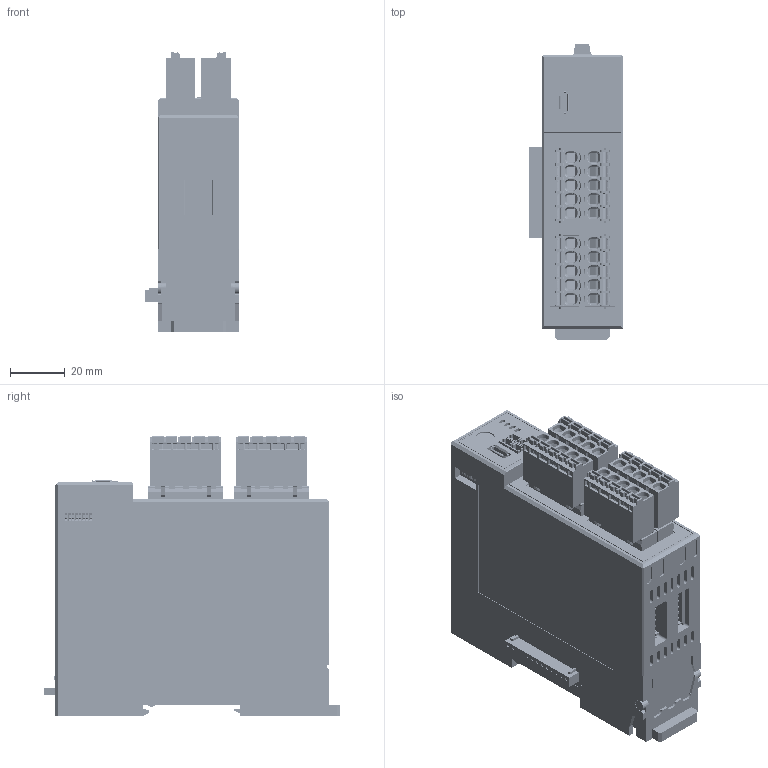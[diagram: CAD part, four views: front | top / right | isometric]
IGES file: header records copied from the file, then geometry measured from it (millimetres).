
Start section: SolidWorks IGES file using analytic representation for surfaces
Global section: file name: D:\KK\CAD_DATA\Q\Q僔儕乕僘\QTC1-R\D24-016\HP_3D\IGES\QTC1-R_HP_260603.IGS; native system: SolidWorks 2025; preprocessor: SolidWorks 2025; author: kawahara; date: 260603.170544; units: millimetre
Bounding box: 34.5 x 107.85 x 102 mm (x, y, z)
Surface area: 54264.7 mm2 (no closed solid volume)
Topology: 0 solids, 0 shells, 5732 faces, 39475 edges, 39399 vertices
Faces by surface type: bspline 3653, revolution 2079
